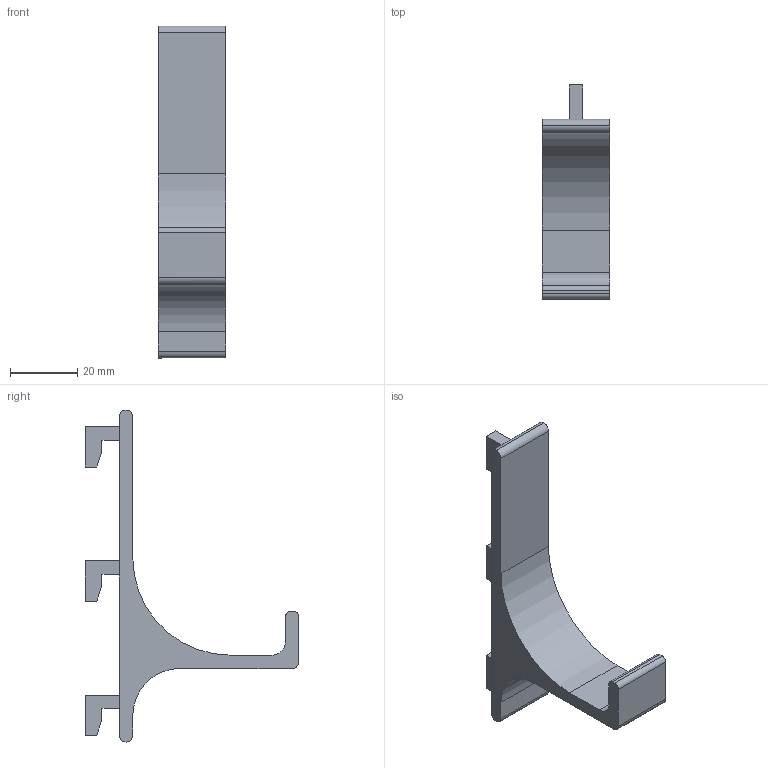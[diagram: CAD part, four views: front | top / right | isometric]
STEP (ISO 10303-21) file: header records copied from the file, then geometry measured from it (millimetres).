
FILE_DESCRIPTION(/* description */ (''),/* implementation_level */ '2;1');
FILE_NAME(/* name */ 'D:/Users/danos/Downloads/Skadis Xbox One Controller Holder v3.step',/* time_stamp */ '2022-04-18T22:52:08+02:00',/* author */ (''),/* organization */ (''),/* preprocessor_version */ 'ST-DEVELOPER v18.1',/* originating_system */ 'Autodesk Translation Framework v10.14.0.1471',/* authorisation */ '');
FILE_SCHEMA (('AUTOMOTIVE_DESIGN { 1 0 10303 214 3 1 1 }'));
Length unit declared in the file: millimetre
Products named in the file (1): Skadis Xbox One Controller Holder
Bounding box: 20 x 63.7 x 99 mm (x, y, z)
Volume: 18259.4 mm3; surface area: 8722.3 mm2
Topology: 1 solids, 1 shells, 43 faces, 114 edges, 76 vertices
Faces by surface type: plane 34, cylinder 8, torus 1
Entity records: 1375 total; most frequent: CARTESIAN_POINT 256, ORIENTED_EDGE 228, DIRECTION 216, EDGE_CURVE 114, LINE 96, VECTOR 96, VERTEX_POINT 76, AXIS2_PLACEMENT_3D 60
